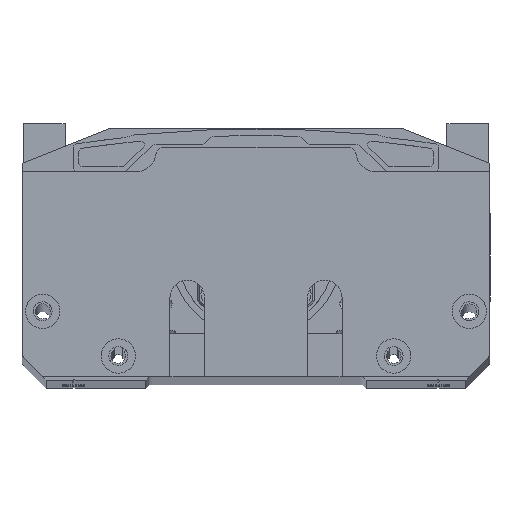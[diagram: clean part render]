
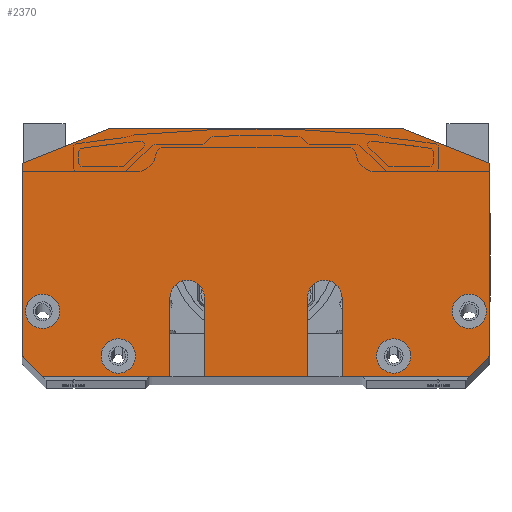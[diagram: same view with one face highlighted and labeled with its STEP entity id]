
A CAD part, top view. The second image highlights one B-rep face of the part: STEP entity #2370.
In plain terms, the highlighted planar face has unit normal (0, 0, 1).
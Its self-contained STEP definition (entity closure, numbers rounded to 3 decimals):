
#2370=ADVANCED_FACE('9',(#3475,#3476,#3477,#3478,#3479),#3051,.T.);
#3051=PLANE('',#19905);
#3475=FACE_BOUND('',#4515,.T.);
#3476=FACE_BOUND('',#4516,.T.);
#3477=FACE_BOUND('',#4517,.T.);
#3478=FACE_BOUND('',#4518,.T.);
#3479=FACE_BOUND('',#4519,.T.);
#4515=EDGE_LOOP('',(#10930,#10931,#10932,#10933,#10934,#10935,#10936,#10937,
#10938,#10939,#10940,#10941,#10942,#10943,#10944,#10945));
#4516=EDGE_LOOP('',(#10946));
#4517=EDGE_LOOP('',(#10947));
#4518=EDGE_LOOP('',(#10948));
#4519=EDGE_LOOP('',(#10949));
#5533=LINE('',#28851,#6883);
#5555=LINE('',#28911,#6905);
#5566=LINE('',#28932,#6916);
#5569=LINE('',#28937,#6919);
#5572=LINE('',#28942,#6922);
#5582=LINE('',#28963,#6932);
#5594=LINE('',#28989,#6944);
#6021=LINE('',#32556,#7371);
#6025=LINE('',#32564,#7375);
#6027=LINE('',#32571,#7377);
#6031=LINE('',#32579,#7381);
#6036=LINE('',#32602,#7386);
#6039=LINE('',#32608,#7389);
#6045=LINE('',#32647,#7395);
#6883=VECTOR('',#21972,1.);
#6905=VECTOR('',#22032,1.);
#6916=VECTOR('',#22051,1.);
#6919=VECTOR('',#22054,1.);
#6922=VECTOR('',#22057,1.);
#6932=VECTOR('',#22075,1.);
#6944=VECTOR('',#22095,1.);
#7371=VECTOR('',#23854,1.);
#7375=VECTOR('',#23860,1.);
#7377=VECTOR('',#23870,1.);
#7381=VECTOR('',#23876,1.);
#7386=VECTOR('',#23901,1.);
#7389=VECTOR('',#23906,1.);
#7395=VECTOR('',#23958,1.);
#10930=ORIENTED_EDGE('',*,*,#16886,.T.);
#10931=ORIENTED_EDGE('',*,*,#16888,.T.);
#10932=ORIENTED_EDGE('',*,*,#16882,.T.);
#10933=ORIENTED_EDGE('',*,*,#15988,.F.);
#10934=ORIENTED_EDGE('',*,*,#16894,.T.);
#10935=ORIENTED_EDGE('',*,*,#16896,.T.);
#10936=ORIENTED_EDGE('',*,*,#16890,.T.);
#10937=ORIENTED_EDGE('',*,*,#15985,.F.);
#10938=ORIENTED_EDGE('',*,*,#16002,.T.);
#10939=ORIENTED_EDGE('',*,*,#16016,.F.);
#10940=ORIENTED_EDGE('',*,*,#16905,.T.);
#10941=ORIENTED_EDGE('',*,*,#16927,.F.);
#10942=ORIENTED_EDGE('',*,*,#16908,.T.);
#10943=ORIENTED_EDGE('',*,*,#15941,.F.);
#10944=ORIENTED_EDGE('',*,*,#15973,.T.);
#10945=ORIENTED_EDGE('',*,*,#15991,.F.);
#10946=ORIENTED_EDGE('',*,*,#16928,.F.);
#10947=ORIENTED_EDGE('',*,*,#16929,.F.);
#10948=ORIENTED_EDGE('',*,*,#16930,.F.);
#10949=ORIENTED_EDGE('',*,*,#16931,.F.);
#13891=VERTEX_POINT('',#28850);
#13892=VERTEX_POINT('',#28852);
#13910=VERTEX_POINT('',#28910);
#13916=VERTEX_POINT('',#28931);
#13917=VERTEX_POINT('',#28933);
#13918=VERTEX_POINT('',#28936);
#13919=VERTEX_POINT('',#28938);
#13920=VERTEX_POINT('',#28941);
#13927=VERTEX_POINT('',#28962);
#13937=VERTEX_POINT('',#28988);
#14476=VERTEX_POINT('',#32557);
#14478=VERTEX_POINT('',#32563);
#14480=VERTEX_POINT('',#32572);
#14482=VERTEX_POINT('',#32578);
#14491=VERTEX_POINT('',#32603);
#14493=VERTEX_POINT('',#32609);
#14503=VERTEX_POINT('',#32649);
#14504=VERTEX_POINT('',#32651);
#14505=VERTEX_POINT('',#32653);
#14506=VERTEX_POINT('',#32655);
#15941=EDGE_CURVE('',#13891,#13892,#5533,.T.);
#15973=EDGE_CURVE('',#13891,#13910,#5555,.T.);
#15985=EDGE_CURVE('',#13916,#13917,#5566,.T.);
#15988=EDGE_CURVE('',#13918,#13919,#5569,.T.);
#15991=EDGE_CURVE('',#13920,#13910,#5572,.T.);
#16002=EDGE_CURVE('',#13916,#13927,#5582,.T.);
#16016=EDGE_CURVE('',#13937,#13927,#5594,.T.);
#16882=EDGE_CURVE('',#14476,#13919,#6021,.T.);
#16886=EDGE_CURVE('',#13920,#14478,#6025,.T.);
#16888=EDGE_CURVE('',#14478,#14476,#18366,.T.);
#16890=EDGE_CURVE('',#14480,#13917,#6027,.T.);
#16894=EDGE_CURVE('',#13918,#14482,#6031,.T.);
#16896=EDGE_CURVE('',#14482,#14480,#18368,.T.);
#16905=EDGE_CURVE('',#13937,#14491,#6036,.T.);
#16908=EDGE_CURVE('',#14493,#13892,#6039,.T.);
#16927=EDGE_CURVE('',#14493,#14491,#6045,.T.);
#16928=EDGE_CURVE('',#14503,#14503,#18386,.T.);
#16929=EDGE_CURVE('',#14504,#14504,#18387,.T.);
#16930=EDGE_CURVE('',#14505,#14505,#18388,.T.);
#16931=EDGE_CURVE('',#14506,#14506,#18389,.T.);
#18366=CIRCLE('',#19864,5.);
#18368=CIRCLE('',#19869,5.);
#18386=CIRCLE('',#19901,5.);
#18387=CIRCLE('',#19902,5.);
#18388=CIRCLE('',#19903,5.);
#18389=CIRCLE('',#19904,5.);
#19864=AXIS2_PLACEMENT_3D('',#32567,#23865,#23866);
#19869=AXIS2_PLACEMENT_3D('',#32582,#23881,#23882);
#19901=AXIS2_PLACEMENT_3D('',#32648,#23959,#23960);
#19902=AXIS2_PLACEMENT_3D('',#32650,#23961,#23962);
#19903=AXIS2_PLACEMENT_3D('',#32652,#23963,#23964);
#19904=AXIS2_PLACEMENT_3D('',#32654,#23965,#23966);
#19905=AXIS2_PLACEMENT_3D('',#32656,#23967,#23968);
#21972=DIRECTION('',(0.,1.,0.));
#22032=DIRECTION('',(0.707,-0.707,0.));
#22051=DIRECTION('',(-1.,0.,0.));
#22054=DIRECTION('',(-1.,0.,0.));
#22057=DIRECTION('',(-1.,0.,0.));
#22075=DIRECTION('',(0.707,0.707,0.));
#22095=DIRECTION('',(0.,-1.,0.));
#23854=DIRECTION('',(0.,-1.,0.));
#23860=DIRECTION('',(0.,1.,0.));
#23865=DIRECTION('',(0.,0.,-1.));
#23866=DIRECTION('',(1.,0.,0.));
#23870=DIRECTION('',(0.,-1.,0.));
#23876=DIRECTION('',(0.,1.,0.));
#23881=DIRECTION('',(0.,0.,-1.));
#23882=DIRECTION('',(-1.,0.,0.));
#23901=DIRECTION('',(-0.928,0.371,0.));
#23906=DIRECTION('',(-0.928,-0.371,0.));
#23958=DIRECTION('',(1.,0.,0.));
#23959=DIRECTION('',(0.,0.,1.));
#23960=DIRECTION('',(1.,0.,0.));
#23961=DIRECTION('',(0.,0.,1.));
#23962=DIRECTION('',(1.,0.,0.));
#23963=DIRECTION('',(0.,0.,1.));
#23964=DIRECTION('',(1.,0.,0.));
#23965=DIRECTION('',(0.,0.,1.));
#23966=DIRECTION('',(1.,0.,0.));
#23967=DIRECTION('',(0.,0.,1.));
#23968=DIRECTION('',(-1.,0.,0.));
#28850=CARTESIAN_POINT('',(-68.,6.,382.));
#28851=CARTESIAN_POINT('',(-68.,0.,382.));
#28852=CARTESIAN_POINT('',(-68.,62.,382.));
#28910=CARTESIAN_POINT('',(-62.,0.,382.));
#28911=CARTESIAN_POINT('',(-49.,-13.,382.));
#28931=CARTESIAN_POINT('',(62.,0.,382.));
#28932=CARTESIAN_POINT('',(68.,0.,382.));
#28933=CARTESIAN_POINT('',(25.,0.,382.));
#28936=CARTESIAN_POINT('',(15.,0.,382.));
#28937=CARTESIAN_POINT('',(68.,0.,382.));
#28938=CARTESIAN_POINT('',(-15.,0.,382.));
#28941=CARTESIAN_POINT('',(-25.,0.,382.));
#28942=CARTESIAN_POINT('',(68.,0.,382.));
#28962=CARTESIAN_POINT('',(68.,6.,382.));
#28963=CARTESIAN_POINT('',(49.,-13.,382.));
#28988=CARTESIAN_POINT('',(68.,62.,382.));
#28989=CARTESIAN_POINT('',(68.,0.,382.));
#32556=CARTESIAN_POINT('',(-15.,23.,382.));
#32557=CARTESIAN_POINT('',(-15.,23.,382.));
#32563=CARTESIAN_POINT('',(-25.,23.,382.));
#32564=CARTESIAN_POINT('',(-25.,23.,382.));
#32567=CARTESIAN_POINT('',(-20.,23.,382.));
#32571=CARTESIAN_POINT('',(25.,23.,382.));
#32572=CARTESIAN_POINT('',(25.,23.,382.));
#32578=CARTESIAN_POINT('',(15.,23.,382.));
#32579=CARTESIAN_POINT('',(15.,23.,382.));
#32582=CARTESIAN_POINT('',(20.,23.,382.));
#32602=CARTESIAN_POINT('',(18.345,81.862,382.));
#32603=CARTESIAN_POINT('',(43.,72.,382.));
#32608=CARTESIAN_POINT('',(-18.345,81.862,382.));
#32609=CARTESIAN_POINT('',(-43.,72.,382.));
#32647=CARTESIAN_POINT('',(68.,72.,382.));
#32648=CARTESIAN_POINT('',(-62.,19.,382.));
#32649=CARTESIAN_POINT('',(-57.,19.,382.));
#32650=CARTESIAN_POINT('',(62.,19.,382.));
#32651=CARTESIAN_POINT('',(67.,19.,382.));
#32652=CARTESIAN_POINT('',(-40.,6.,382.));
#32653=CARTESIAN_POINT('',(-35.,6.,382.));
#32654=CARTESIAN_POINT('',(40.,6.,382.));
#32655=CARTESIAN_POINT('',(45.,6.,382.));
#32656=CARTESIAN_POINT('',(0.,36.,382.));
